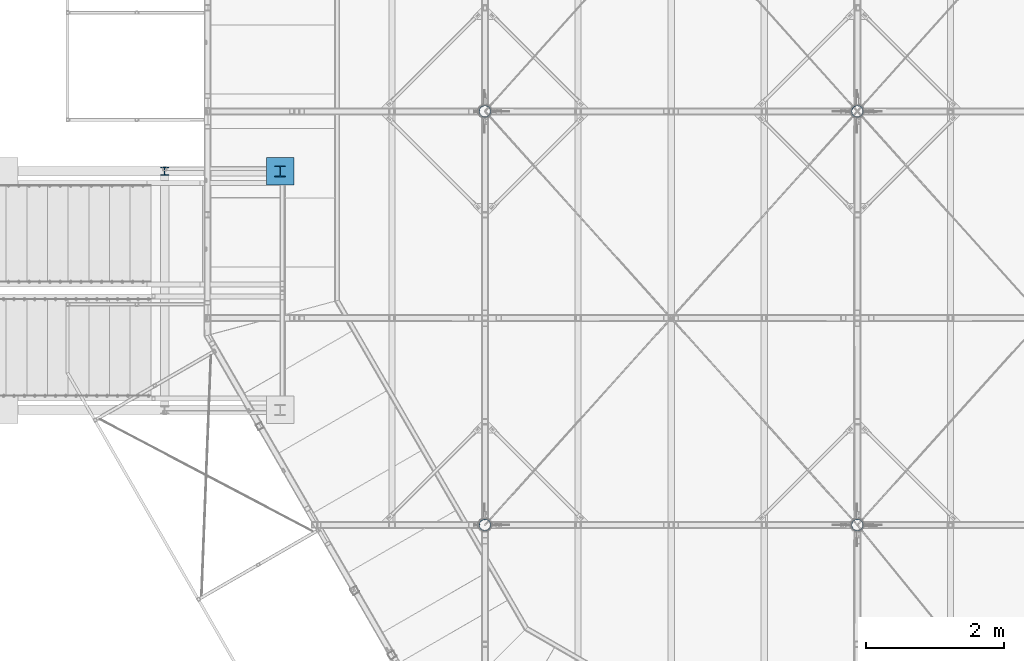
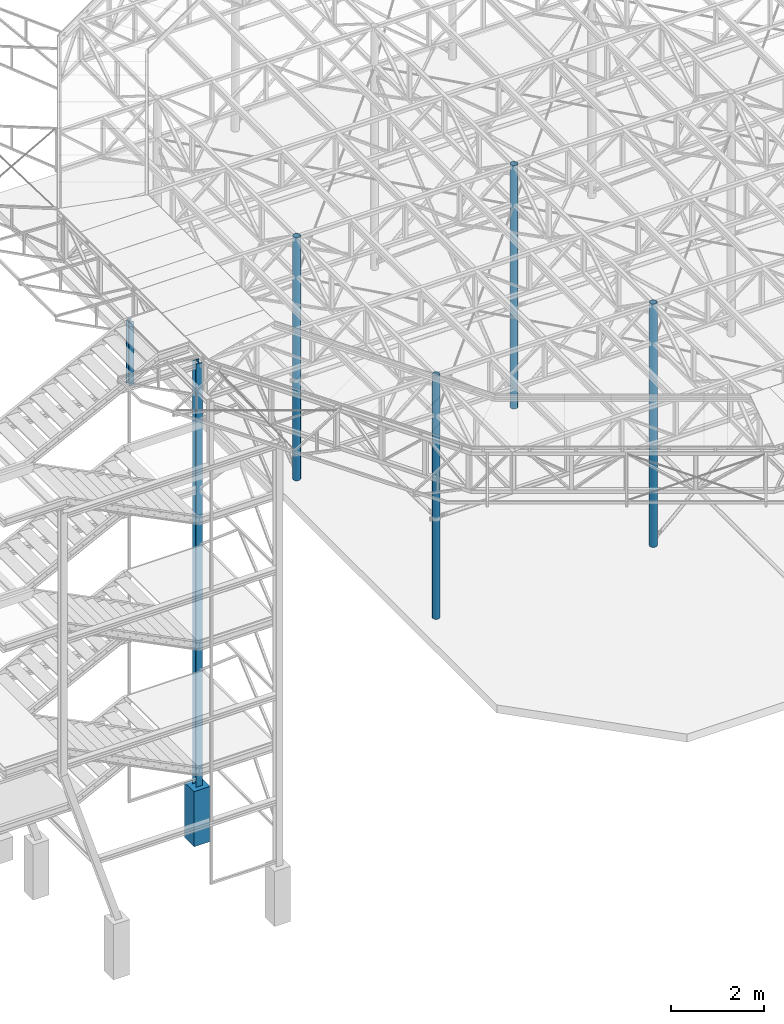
# One storey, part 2 of 132: 7 columns, 7 elements without a shape of their own.
"""IFC2X3 building model written with IfcOpenShell, lengths in millimetres."""

from ifc_helpers import new_model, si_unit, frame, origin_with_axes, origin_2d_with_axis, place, context, subcontext, project, spatial, rectangle, hollow_circle, i_section, extrude, material, type_object, element, aggregate, save


model = new_model("IFC2X3")

# Units and contexts
model_context = context("Model", 3, precision=1e-05, world=origin_with_axes())
body_context = subcontext(model_context, "Body", "Model", "MODEL_VIEW")
ifc_project = project(units=[si_unit("LENGTHUNIT", "METRE", prefix="MILLI"), si_unit("AREAUNIT", "SQUARE_METRE"), si_unit("VOLUMEUNIT", "CUBIC_METRE"), si_unit("MASSUNIT", "GRAM", prefix="KILO"), si_unit("TIMEUNIT", "SECOND"), si_unit("PLANEANGLEUNIT", "RADIAN"), si_unit("SOLIDANGLEUNIT", "STERADIAN"), si_unit("THERMODYNAMICTEMPERATUREUNIT", "DEGREE_CELSIUS"), si_unit("LUMINOUSINTENSITYUNIT", "LUMEN")], contexts=[model_context])

# Site, building, storey
site_placement = place(None, origin_with_axes())
site = spatial("IfcSite", under=ifc_project, at=site_placement, Name="Budowa", CompositionType="ELEMENT")
building_placement = place(site_placement, origin_with_axes())
building = spatial("IfcBuilding", under=site, at=building_placement, Name="Undefined", CompositionType="ELEMENT")
storey_placement = place(building_placement, origin_with_axes())
storey = spatial("IfcBuildingStorey", under=building, at=storey_placement, Name="Undefined", CompositionType="ELEMENT", Elevation=0.0)

# Assembly, column
assembly_1_placement = place(storey_placement, origin_with_axes())
assembly_1 = element("IfcElementAssembly", 1, at=assembly_1_placement, inside=storey, Name="Steel Assembly", AssemblyPlace="NOTDEFINED", PredefinedType="RIGID_FRAME")
ifc_material_1 = material(Name="STEEL/S235")
column_type_1 = type_object("IfcColumnType", Name="HEB120", PredefinedType="NOTDEFINED")
column_1_placement = place(assembly_1_placement, frame((-620.00000008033, 11130.000000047, 12140.0), z_axis=(0.0, 0.0, 1.0), x_axis=(0.0, -1.0, 0.0)))
column_1 = element("IfcColumn", 2, at=column_1_placement, type_object=column_type_1, material=ifc_material_1, Name="BEAM", ObjectType="HEB120", context=body_context, shape_type="SweptSolid", body=[
    extrude(i_section(OverallWidth=120.0, OverallDepth=120.0, WebThickness=6.5, FlangeThickness=11.0, FilletRadius=12.0, at=origin_2d_with_axis()), frame((0.0, 0.0, 1660.0), z_axis=(0.0, 0.0, -1.0), x_axis=(0.0, 1.0, 0.0)), (0.0, 0.0, 1.0), 1660.0),
])
aggregate(assembly_1, [column_1])

assembly_2_placement = place(storey_placement, origin_with_axes())
assembly_2 = element("IfcElementAssembly", 3, at=assembly_2_placement, inside=storey, Name="COLUMN", AssemblyPlace="NOTDEFINED", PredefinedType="REINFORCEMENT_UNIT")
ifc_material_2 = material(Name="CONCRETE/C25/30")
column_type_2 = type_object("IfcColumnType", Name="400*400", PredefinedType="NOTDEFINED")
column_2_placement = place(assembly_2_placement, frame((1054.99999991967, 11130.000000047, -430.0), z_axis=(0.0, 0.0, 1.0), x_axis=(-1.0, 0.0, 0.0)))
column_2 = element("IfcColumn", 4, at=column_2_placement, type_object=column_type_2, material=ifc_material_2, Name="COLUMN", ObjectType="400*400", context=body_context, shape_type="SweptSolid", body=[
    extrude(rectangle(XDim=400.0, YDim=400.0, at=origin_2d_with_axis()), frame((0.0, 0.0, 1450.0), z_axis=(0.0, 0.0, -1.0), x_axis=(0.0, 1.0, 0.0)), (0.0, 0.0, 1.0), 1450.0),
])
aggregate(assembly_2, [column_2])

assembly_3_placement = place(storey_placement, origin_with_axes())
assembly_3 = element("IfcElementAssembly", 5, at=assembly_3_placement, inside=storey, Name="Steel Assembly", AssemblyPlace="NOTDEFINED", PredefinedType="RIGID_FRAME")
column_type_3 = type_object("IfcColumnType", Name="HEB160", PredefinedType="NOTDEFINED")
column_3_placement = place(assembly_3_placement, frame((1054.99999991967, 11130.000000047, 1020.0), z_axis=(0.0, 0.0, 1.0), x_axis=(0.0, 1.0, 0.0)))
column_3 = element("IfcColumn", 6, at=column_3_placement, type_object=column_type_3, material=ifc_material_1, Name="COLUMN", ObjectType="HEB160", context=body_context, shape_type="SweptSolid", body=[
    extrude(i_section(OverallWidth=160.0, OverallDepth=160.0, WebThickness=8.0, FlangeThickness=13.0, FilletRadius=15.0, at=origin_2d_with_axis()), frame((0.0, 0.0, 11120.0), z_axis=(0.0, 0.0, -1.0), x_axis=(0.0, 1.0, 0.0)), (0.0, 0.0, 1.0), 11120.0),
])
aggregate(assembly_3, [column_3])

assembly_4_placement = place(storey_placement, origin_with_axes())
assembly_4 = element("IfcElementAssembly", 7, at=assembly_4_placement, inside=storey, Name="Steel Assembly", AssemblyPlace="NOTDEFINED", PredefinedType="RIGID_FRAME")
column_type_4 = type_object("IfcColumnType", Name="CHS177.8*12.5", PredefinedType="NOTDEFINED")
column_4_placement = place(assembly_4_placement, frame((4024.99999991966, 6000.00000004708, 7491.0), z_axis=(0.0, 0.0, 1.0), x_axis=(-1.0, 0.0, 0.0)))
column_4 = element("IfcColumn", 8, at=column_4_placement, type_object=column_type_4, material=ifc_material_1, Name="COLUMN", ObjectType="CHS177.8*12.5", context=body_context, shape_type="SweptSolid", body=[
    extrude(hollow_circle(Radius=88.9, WallThickness=12.5, at=origin_2d_with_axis()), frame((0.0, 0.0, 6389.0), z_axis=(0.0, 0.0, -1.0), x_axis=(0.0, 1.0, 0.0)), (0.0, 0.0, 1.0), 6389.0),
])
aggregate(assembly_4, [column_4])

assembly_5_placement = place(storey_placement, origin_with_axes())
assembly_5 = element("IfcElementAssembly", 9, at=assembly_5_placement, inside=storey, Name="Steel Assembly", AssemblyPlace="NOTDEFINED", PredefinedType="RIGID_FRAME")
column_5_placement = place(assembly_5_placement, frame((4024.99999991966, 12000.000000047, 7491.0), z_axis=(0.0, 0.0, 1.0), x_axis=(-1.0, 0.0, 0.0)))
column_5 = element("IfcColumn", 10, at=column_5_placement, type_object=column_type_4, material=ifc_material_1, Name="COLUMN", ObjectType="CHS177.8*12.5", context=body_context, shape_type="SweptSolid", body=[
    extrude(hollow_circle(Radius=88.9, WallThickness=12.5, at=origin_2d_with_axis()), frame((0.0, 0.0, 6389.0), z_axis=(0.0, 0.0, -1.0), x_axis=(0.0, 1.0, 0.0)), (0.0, 0.0, 1.0), 6389.0),
])
aggregate(assembly_5, [column_5])

assembly_6_placement = place(storey_placement, origin_with_axes())
assembly_6 = element("IfcElementAssembly", 11, at=assembly_6_placement, inside=storey, Name="Steel Assembly", AssemblyPlace="NOTDEFINED", PredefinedType="RIGID_FRAME")
column_6_placement = place(assembly_6_placement, frame((9424.99999994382, 12000.000000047, 7491.0), z_axis=(0.0, 0.0, 1.0), x_axis=(-1.0, 0.0, 0.0)))
column_6 = element("IfcColumn", 12, at=column_6_placement, type_object=column_type_4, material=ifc_material_1, Name="COLUMN", ObjectType="CHS177.8*12.5", context=body_context, shape_type="SweptSolid", body=[
    extrude(hollow_circle(Radius=88.9, WallThickness=12.5, at=origin_2d_with_axis()), frame((0.0, 0.0, 6389.0), z_axis=(0.0, 0.0, -1.0), x_axis=(0.0, 1.0, 0.0)), (0.0, 0.0, 1.0), 6389.0),
])
aggregate(assembly_6, [column_6])

assembly_7_placement = place(storey_placement, origin_with_axes())
assembly_7 = element("IfcElementAssembly", 13, at=assembly_7_placement, inside=storey, Name="Steel Assembly", AssemblyPlace="NOTDEFINED", PredefinedType="RIGID_FRAME")
column_7_placement = place(assembly_7_placement, frame((9424.99999994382, 6000.00000004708, 7491.0), z_axis=(0.0, 0.0, 1.0), x_axis=(-1.0, 0.0, 0.0)))
column_7 = element("IfcColumn", 14, at=column_7_placement, type_object=column_type_4, material=ifc_material_1, Name="COLUMN", ObjectType="CHS177.8*12.5", context=body_context, shape_type="SweptSolid", body=[
    extrude(hollow_circle(Radius=88.9, WallThickness=12.5, at=origin_2d_with_axis()), frame((0.0, 0.0, 6389.0), z_axis=(0.0, 0.0, -1.0), x_axis=(0.0, 1.0, 0.0)), (0.0, 0.0, 1.0), 6389.0),
])
aggregate(assembly_7, [column_7])

save(model, "model.ifc")
